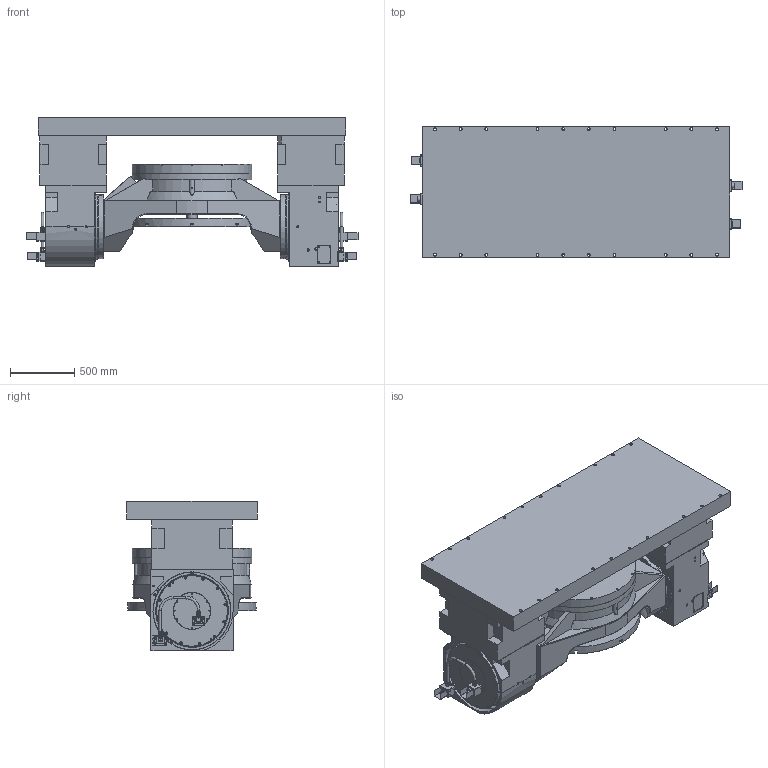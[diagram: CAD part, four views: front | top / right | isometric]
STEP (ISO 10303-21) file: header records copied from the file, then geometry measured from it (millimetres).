
FILE_DESCRIPTION (( 'STEP AP203' ), '1' );
FILE_NAME ('1539148.STEP', '2021-08-24T23:29:01', ( '' ), ( '' ), 'SwSTEP 2.0', 'SolidWorks 2021', '' );
FILE_SCHEMA (( 'CONFIG_CONTROL_DESIGN' ));
Length unit declared in the file: millimetre
Products named in the file (1): 1539148
Bounding box: 2590.6 x 1020 x 1165 mm (x, y, z)
Surface area: 20105716.8 mm2 (no closed solid volume)
Topology: 0 solids, 108 shells, 821 faces, 3029 edges, 2294 vertices
Faces by surface type: plane 437, cylinder 282, cone 86, torus 10, bspline 4, sphere 2
Full cylindrical faces by diameter (mm): 4.2 x2, 5.2 x2, 6 x4, 6.5 x1, 9.5 x16, 10 x1, 10.2 x4, 10.3 x8, 11 x14, 12 x2, 14 x24, 15 x6, 18 x8, 19 x24, 19.5 x8, 21.3 x6, 22 x36, 25 x2, 26.5 x2, 27.7 x2, 30 x2, 31 x2, 31.5 x4, 33.2 x2, 36 x2, 39 x2, 40 x2, 80 x1, 240 x1, 288 x2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
Entity records: 34494 total; most frequent: CARTESIAN_POINT 9005, DIRECTION 5339, ORIENTED_EDGE 3924, EDGE_CURVE 2693, VERTEX_POINT 2252, AXIS2_PLACEMENT_3D 1968, EDGE_LOOP 1712, VECTOR 1403
